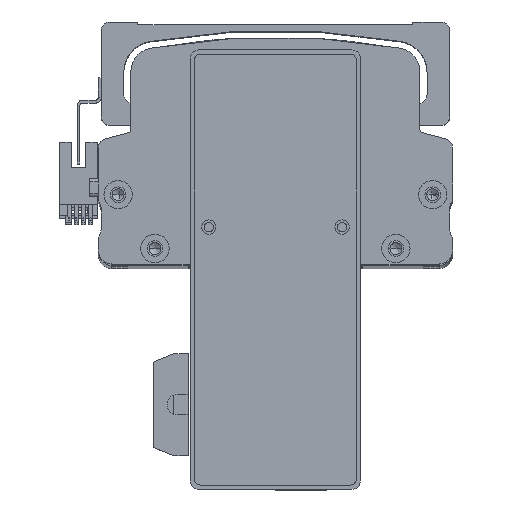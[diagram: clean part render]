
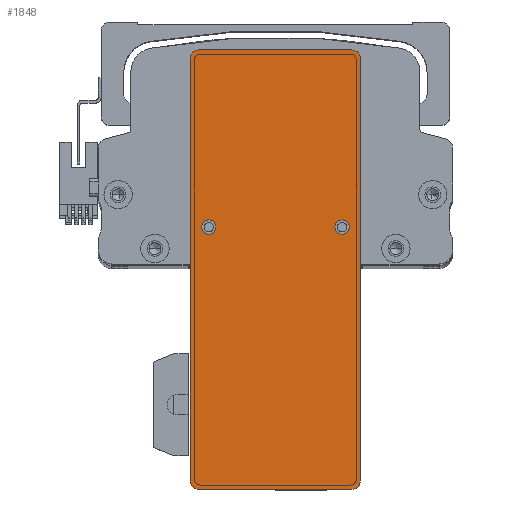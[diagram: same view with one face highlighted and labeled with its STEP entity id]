
A CAD part, top view. The second image highlights one B-rep face of the part: STEP entity #1848.
In plain terms, the highlighted planar face has unit normal (0, 0, 1) as drawn and (0, 0, -1) by its records, which use the part's own axes.
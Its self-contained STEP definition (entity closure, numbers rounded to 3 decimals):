
#1538 = PLANE ( 'NONE',  #70459 ) ;
#1735 = CARTESIAN_POINT ( 'NONE',  ( -77.5, 27., 0. ) ) ;
#1848 = ADVANCED_FACE ( 'NONE', ( #60342, #76979, #12470 ), #1538, .F. ) ;
#3262 = CARTESIAN_POINT ( 'NONE',  ( 74.5, 30., 0. ) ) ;
#4625 = ORIENTED_EDGE ( 'NONE', *, *, #11116, .F. ) ;
#4825 = VERTEX_POINT ( 'NONE', #30057 ) ;
#5991 = DIRECTION ( 'NONE',  ( 1., 0., 0. ) ) ;
#6126 = EDGE_LOOP ( 'NONE', ( #30983, #27072, #4625, #71555, #34125, #58185, #24027, #80047 ) ) ;
#7757 = AXIS2_PLACEMENT_3D ( 'NONE', #80862, #43411, #5991 ) ;
#8084 = CARTESIAN_POINT ( 'NONE',  ( 12.5, 23.5, 0. ) ) ;
#8438 = DIRECTION ( 'NONE',  ( 0., 0., -1. ) ) ;
#8882 = CARTESIAN_POINT ( 'NONE',  ( 74.5, -27., 0. ) ) ;
#9155 = EDGE_LOOP ( 'NONE', ( #32113, #66943 ) ) ;
#10189 = CARTESIAN_POINT ( 'NONE',  ( 74.5, -30., 0. ) ) ;
#11116 = EDGE_CURVE ( 'NONE', #32915, #52680, #67582, .T. ) ;
#11625 = CARTESIAN_POINT ( 'NONE',  ( 15., -23.5, 0. ) ) ;
#12144 = CARTESIAN_POINT ( 'NONE',  ( 74.5, 27., 0. ) ) ;
#12213 = DIRECTION ( 'NONE',  ( 0., 1., 0. ) ) ;
#12470 = FACE_OUTER_BOUND ( 'NONE', #6126, .T. ) ;
#12842 = CARTESIAN_POINT ( 'NONE',  ( 77.5, 30., 0. ) ) ;
#14074 = EDGE_CURVE ( 'NONE', #52293, #26423, #37756, .T. ) ;
#15171 = DIRECTION ( 'NONE',  ( 1., 0., 0. ) ) ;
#15380 = EDGE_CURVE ( 'NONE', #30173, #67014, #69687, .T. ) ;
#16192 = VERTEX_POINT ( 'NONE', #71872 ) ;
#17598 = CARTESIAN_POINT ( 'NONE',  ( -74.5, -27., 0. ) ) ;
#17910 = DIRECTION ( 'NONE',  ( -1., 0., 0. ) ) ;
#18486 = DIRECTION ( 'NONE',  ( 1., 0., 0. ) ) ;
#18883 = AXIS2_PLACEMENT_3D ( 'NONE', #45826, #8438, #52136 ) ;
#19105 = LINE ( 'NONE', #12842, #50332 ) ;
#19164 = DIRECTION ( 'NONE',  ( -1., 0., 0. ) ) ;
#19865 = AXIS2_PLACEMENT_3D ( 'NONE', #32140, #75866, #38420 ) ;
#20215 = AXIS2_PLACEMENT_3D ( 'NONE', #12144, #55851, #18486 ) ;
#20544 = ORIENTED_EDGE ( 'NONE', *, *, #14074, .F. ) ;
#21939 = DIRECTION ( 'NONE',  ( 1., 0., 0. ) ) ;
#22220 = AXIS2_PLACEMENT_3D ( 'NONE', #62396, #24982, #68690 ) ;
#23024 = AXIS2_PLACEMENT_3D ( 'NONE', #17598, #61242, #23832 ) ;
#23832 = DIRECTION ( 'NONE',  ( 1., 0., 0. ) ) ;
#24027 = ORIENTED_EDGE ( 'NONE', *, *, #25662, .F. ) ;
#24982 = DIRECTION ( 'NONE',  ( 0., 0., -1. ) ) ;
#25662 = EDGE_CURVE ( 'NONE', #53177, #25739, #19105, .T. ) ;
#25739 = VERTEX_POINT ( 'NONE', #57371 ) ;
#26423 = VERTEX_POINT ( 'NONE', #8084 ) ;
#26662 = DIRECTION ( 'NONE',  ( 0., 0., 1. ) ) ;
#27072 = ORIENTED_EDGE ( 'NONE', *, *, #49947, .T. ) ;
#30057 = CARTESIAN_POINT ( 'NONE',  ( 17.5, -23.5, 0. ) ) ;
#30173 = VERTEX_POINT ( 'NONE', #1735 ) ;
#30983 = ORIENTED_EDGE ( 'NONE', *, *, #73902, .F. ) ;
#31383 = EDGE_CURVE ( 'NONE', #49424, #4825, #46090, .T. ) ;
#31477 = CARTESIAN_POINT ( 'NONE',  ( 17.5, 23.5, 0. ) ) ;
#32113 = ORIENTED_EDGE ( 'NONE', *, *, #31383, .F. ) ;
#32140 = CARTESIAN_POINT ( 'NONE',  ( 15., 23.5, 0. ) ) ;
#32915 = VERTEX_POINT ( 'NONE', #66285 ) ;
#34125 = ORIENTED_EDGE ( 'NONE', *, *, #15380, .F. ) ;
#34951 = CARTESIAN_POINT ( 'NONE',  ( -77.5, -27., 0. ) ) ;
#37756 = CIRCLE ( 'NONE', #22220, 2.5 ) ;
#38420 = DIRECTION ( 'NONE',  ( -1., 0., 0. ) ) ;
#42621 = AXIS2_PLACEMENT_3D ( 'NONE', #8882, #52565, #15171 ) ;
#43411 = DIRECTION ( 'NONE',  ( 0., 0., -1. ) ) ;
#43694 = VECTOR ( 'NONE', #12213, 1000. ) ;
#45826 = CARTESIAN_POINT ( 'NONE',  ( 15., -23.5, 0. ) ) ;
#46090 = CIRCLE ( 'NONE', #52134, 2.5 ) ;
#46534 = EDGE_CURVE ( 'NONE', #4825, #49424, #66904, .T. ) ;
#49070 = CIRCLE ( 'NONE', #19865, 2.5 ) ;
#49424 = VERTEX_POINT ( 'NONE', #65227 ) ;
#49947 = EDGE_CURVE ( 'NONE', #16192, #52680, #70596, .T. ) ;
#50332 = VECTOR ( 'NONE', #19164, 1000. ) ;
#50938 = VECTOR ( 'NONE', #21939, 1000. ) ;
#52134 = AXIS2_PLACEMENT_3D ( 'NONE', #11625, #55305, #17910 ) ;
#52136 = DIRECTION ( 'NONE',  ( -1., 0., 0. ) ) ;
#52293 = VERTEX_POINT ( 'NONE', #31477 ) ;
#52565 = DIRECTION ( 'NONE',  ( 0., 0., -1. ) ) ;
#52680 = VERTEX_POINT ( 'NONE', #10189 ) ;
#53065 = VECTOR ( 'NONE', #73640, 1000. ) ;
#53072 = CARTESIAN_POINT ( 'NONE',  ( 77.5, -30., 0. ) ) ;
#53177 = VERTEX_POINT ( 'NONE', #3262 ) ;
#54811 = CARTESIAN_POINT ( 'NONE',  ( -77.5, -30., 0. ) ) ;
#54902 = CIRCLE ( 'NONE', #23024, 3. ) ;
#55305 = DIRECTION ( 'NONE',  ( 0., 0., -1. ) ) ;
#55851 = DIRECTION ( 'NONE',  ( 0., 0., -1. ) ) ;
#57371 = CARTESIAN_POINT ( 'NONE',  ( -74.5, 30., 0. ) ) ;
#58185 = ORIENTED_EDGE ( 'NONE', *, *, #75577, .T. ) ;
#60326 = LINE ( 'NONE', #62167, #43694 ) ;
#60342 = FACE_BOUND ( 'NONE', #63408, .T. ) ;
#61242 = DIRECTION ( 'NONE',  ( 0., 0., -1. ) ) ;
#62167 = CARTESIAN_POINT ( 'NONE',  ( 77.5, -30., 0. ) ) ;
#62396 = CARTESIAN_POINT ( 'NONE',  ( 15., 23.5, 0. ) ) ;
#63408 = EDGE_LOOP ( 'NONE', ( #66294, #20544 ) ) ;
#64040 = CARTESIAN_POINT ( 'NONE',  ( 0., 0., 0. ) ) ;
#64314 = EDGE_CURVE ( 'NONE', #32915, #67014, #54902, .T. ) ;
#65227 = CARTESIAN_POINT ( 'NONE',  ( 12.5, -23.5, 0. ) ) ;
#66285 = CARTESIAN_POINT ( 'NONE',  ( -74.5, -30., 0. ) ) ;
#66294 = ORIENTED_EDGE ( 'NONE', *, *, #76163, .F. ) ;
#66904 = CIRCLE ( 'NONE', #18883, 2.5 ) ;
#66943 = ORIENTED_EDGE ( 'NONE', *, *, #46534, .F. ) ;
#67014 = VERTEX_POINT ( 'NONE', #34951 ) ;
#67582 = LINE ( 'NONE', #53072, #50938 ) ;
#68690 = DIRECTION ( 'NONE',  ( -1., 0., 0. ) ) ;
#69687 = LINE ( 'NONE', #54811, #53065 ) ;
#70378 = DIRECTION ( 'NONE',  ( 1., 0., 0. ) ) ;
#70459 = AXIS2_PLACEMENT_3D ( 'NONE', #64040, #26662, #70378 ) ;
#70596 = CIRCLE ( 'NONE', #42621, 3. ) ;
#71555 = ORIENTED_EDGE ( 'NONE', *, *, #64314, .T. ) ;
#71872 = CARTESIAN_POINT ( 'NONE',  ( 77.5, -27., 0. ) ) ;
#73478 = CIRCLE ( 'NONE', #20215, 3. ) ;
#73640 = DIRECTION ( 'NONE',  ( 0., -1., 0. ) ) ;
#73902 = EDGE_CURVE ( 'NONE', #16192, #80848, #60326, .T. ) ;
#75577 = EDGE_CURVE ( 'NONE', #30173, #25739, #80485, .T. ) ;
#75866 = DIRECTION ( 'NONE',  ( 0., 0., -1. ) ) ;
#76163 = EDGE_CURVE ( 'NONE', #26423, #52293, #49070, .T. ) ;
#76979 = FACE_BOUND ( 'NONE', #9155, .T. ) ;
#77113 = CARTESIAN_POINT ( 'NONE',  ( 77.5, 27., 0. ) ) ;
#80047 = ORIENTED_EDGE ( 'NONE', *, *, #80560, .T. ) ;
#80485 = CIRCLE ( 'NONE', #7757, 3. ) ;
#80560 = EDGE_CURVE ( 'NONE', #53177, #80848, #73478, .T. ) ;
#80848 = VERTEX_POINT ( 'NONE', #77113 ) ;
#80862 = CARTESIAN_POINT ( 'NONE',  ( -74.5, 27., 0. ) ) ;
